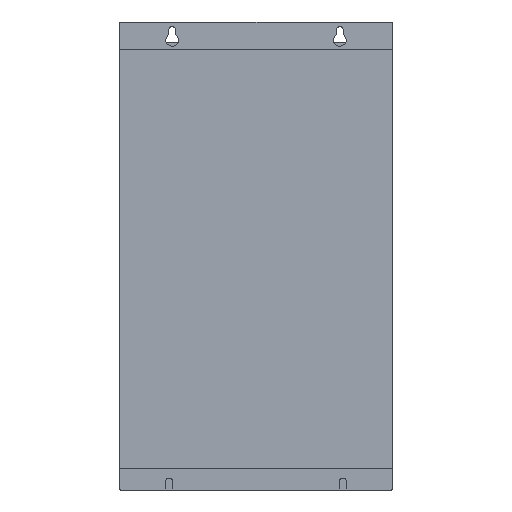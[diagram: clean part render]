
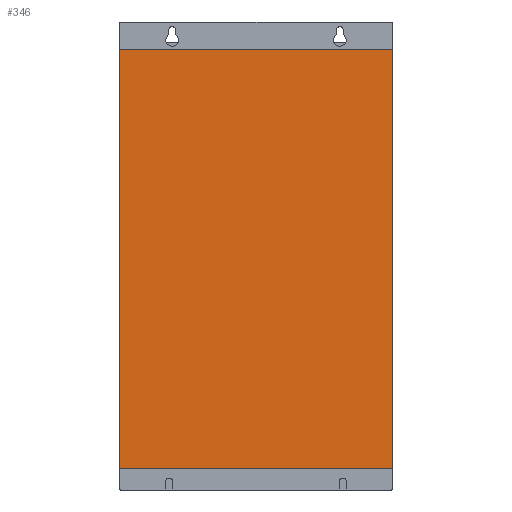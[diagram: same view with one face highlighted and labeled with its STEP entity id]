
A CAD part, left-side view. The second image highlights one B-rep face of the part: STEP entity #346.
In plain terms, the highlighted planar face has unit normal (-1, 0, 0) as drawn and (0, -1, 0) by its records, which use the part's own axes.
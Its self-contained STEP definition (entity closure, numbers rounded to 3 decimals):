
#346=ADVANCED_FACE('',(#5388),#5390,.T.);
#5388=FACE_BOUND('',#5389,.T.);
#5389=EDGE_LOOP('',(#12704,#12705,#12706,#12707));
#5390=PLANE('',#5391);
#5391=AXIS2_PLACEMENT_3D('',#5392,#5393,#5394);
#5392=CARTESIAN_POINT('',(0.,2.,0.));
#5393=DIRECTION('',(0.,-1.,0.));
#5394=DIRECTION('',(1.,0.,0.));
#12704=ORIENTED_EDGE('',*,*,#16920,.F.);
#12705=ORIENTED_EDGE('',*,*,#17193,.T.);
#12706=ORIENTED_EDGE('',*,*,#17026,.F.);
#12707=ORIENTED_EDGE('',*,*,#17176,.T.);
#16920=EDGE_CURVE('',#19341,#19343,#19344,.T.);
#17026=EDGE_CURVE('',#19551,#19553,#19554,.T.);
#17176=EDGE_CURVE('',#19551,#19343,#19830,.T.);
#17193=EDGE_CURVE('',#19341,#19553,#19859,.T.);
#19341=VERTEX_POINT('',#23533);
#19343=VERTEX_POINT('',#23537);
#19344=LINE('',#23538,#23539);
#19551=VERTEX_POINT('',#24000);
#19553=VERTEX_POINT('',#24004);
#19554=LINE('',#24005,#24006);
#19830=LINE('',#24643,#24644);
#19859=LINE('',#24711,#24712);
#23533=CARTESIAN_POINT('',(-125.5,2.,-195.4));
#23537=CARTESIAN_POINT('',(-125.5,2.,190.6));
#23538=CARTESIAN_POINT('',(-125.5,2.,-195.4));
#23539=VECTOR('',#23540,1.);
#23540=DIRECTION('',(0.,0.,1.));
#24000=CARTESIAN_POINT('',(125.5,2.,190.6));
#24004=CARTESIAN_POINT('',(125.5,2.,-195.4));
#24005=CARTESIAN_POINT('',(125.5,2.,190.6));
#24006=VECTOR('',#24007,1.);
#24007=DIRECTION('',(0.,0.,-1.));
#24643=CARTESIAN_POINT('',(125.5,2.,190.6));
#24644=VECTOR('',#24645,1.);
#24645=DIRECTION('',(-1.,0.,0.));
#24711=CARTESIAN_POINT('',(-125.5,2.,-195.4));
#24712=VECTOR('',#24713,1.);
#24713=DIRECTION('',(1.,0.,0.));
